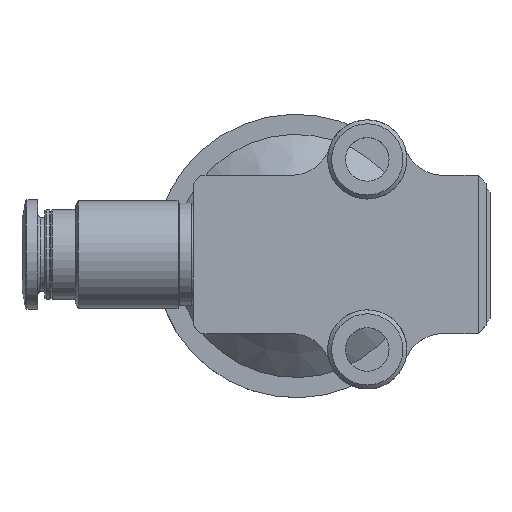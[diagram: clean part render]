
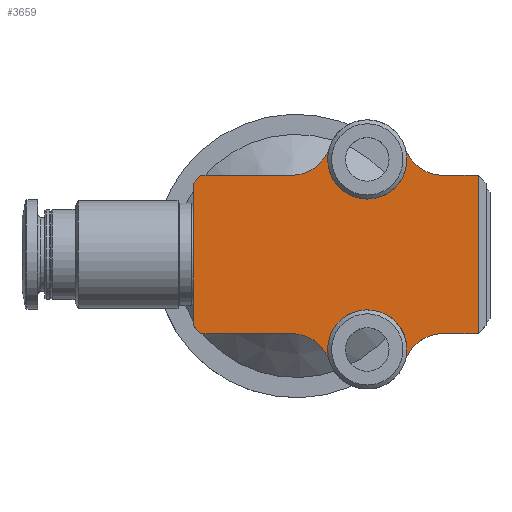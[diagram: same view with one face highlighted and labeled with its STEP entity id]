
A CAD part, top view. The second image highlights one B-rep face of the part: STEP entity #3659.
In plain terms, the highlighted planar face has unit normal (0, 0, 1).
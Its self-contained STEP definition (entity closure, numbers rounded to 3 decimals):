
#98=PLANE('',#3936);
#264=CIRCLE('',#3912,5.);
#266=CIRCLE('',#3915,5.);
#278=CIRCLE('',#3937,5.);
#279=CIRCLE('',#3938,5.);
#280=CIRCLE('',#3939,5.);
#281=CIRCLE('',#3940,5.);
#686=ORIENTED_EDGE('',*,*,#1190,.T.);
#687=ORIENTED_EDGE('',*,*,#1227,.T.);
#688=ORIENTED_EDGE('',*,*,#1228,.F.);
#689=ORIENTED_EDGE('',*,*,#1158,.F.);
#690=ORIENTED_EDGE('',*,*,#1226,.F.);
#691=ORIENTED_EDGE('',*,*,#1229,.F.);
#692=ORIENTED_EDGE('',*,*,#1209,.F.);
#693=ORIENTED_EDGE('',*,*,#1185,.T.);
#694=ORIENTED_EDGE('',*,*,#1230,.T.);
#695=ORIENTED_EDGE('',*,*,#1181,.T.);
#696=ORIENTED_EDGE('',*,*,#1204,.T.);
#697=ORIENTED_EDGE('',*,*,#1231,.T.);
#698=ORIENTED_EDGE('',*,*,#1194,.F.);
#699=ORIENTED_EDGE('',*,*,#1232,.T.);
#700=ORIENTED_EDGE('',*,*,#1233,.T.);
#701=ORIENTED_EDGE('',*,*,#1234,.T.);
#1158=EDGE_CURVE('',#1448,#1447,#1618,.T.);
#1181=EDGE_CURVE('',#1485,#1484,#264,.T.);
#1185=EDGE_CURVE('',#1489,#1487,#266,.T.);
#1190=EDGE_CURVE('',#1494,#1493,#1639,.T.);
#1194=EDGE_CURVE('',#1497,#1498,#1643,.T.);
#1204=EDGE_CURVE('',#1484,#1507,#1653,.T.);
#1209=EDGE_CURVE('',#1489,#1511,#1658,.T.);
#1226=EDGE_CURVE('',#1522,#1448,#1665,.T.);
#1227=EDGE_CURVE('',#1493,#1523,#1666,.T.);
#1228=EDGE_CURVE('',#1447,#1523,#1667,.T.);
#1229=EDGE_CURVE('',#1511,#1522,#1668,.F.);
#1230=EDGE_CURVE('',#1487,#1485,#278,.T.);
#1231=EDGE_CURVE('',#1507,#1498,#1669,.T.);
#1232=EDGE_CURVE('',#1497,#1524,#279,.T.);
#1233=EDGE_CURVE('',#1524,#1525,#280,.T.);
#1234=EDGE_CURVE('',#1525,#1494,#281,.T.);
#1447=VERTEX_POINT('',#8110);
#1448=VERTEX_POINT('',#8111);
#1484=VERTEX_POINT('',#8238);
#1485=VERTEX_POINT('',#8240);
#1487=VERTEX_POINT('',#8246);
#1489=VERTEX_POINT('',#8249);
#1493=VERTEX_POINT('',#8258);
#1494=VERTEX_POINT('',#8260);
#1497=VERTEX_POINT('',#8268);
#1498=VERTEX_POINT('',#8269);
#1507=VERTEX_POINT('',#8288);
#1511=VERTEX_POINT('',#8299);
#1522=VERTEX_POINT('',#8331);
#1523=VERTEX_POINT('',#8335);
#1524=VERTEX_POINT('',#8341);
#1525=VERTEX_POINT('',#8343);
#1618=LINE('',#8170,#1762);
#1639=LINE('',#8259,#1783);
#1643=LINE('',#8267,#1787);
#1653=LINE('',#8289,#1797);
#1658=LINE('',#8298,#1802);
#1665=LINE('',#8332,#1809);
#1666=LINE('',#8334,#1810);
#1667=LINE('',#8336,#1811);
#1668=LINE('',#8337,#1812);
#1669=LINE('',#8339,#1813);
#1762=VECTOR('',#4422,1000.);
#1783=VECTOR('',#4483,1000.);
#1787=VECTOR('',#4489,1000.);
#1797=VECTOR('',#4501,1000.);
#1802=VECTOR('',#4508,1000.);
#1809=VECTOR('',#4545,1000.);
#1810=VECTOR('',#4548,1000.);
#1811=VECTOR('',#4549,1000.);
#1812=VECTOR('',#4550,1000.);
#1813=VECTOR('',#4553,1000.);
#2016=EDGE_LOOP('',(#686,#687,#688,#689,#690,#691,#692,#693,#694,#695,#696,
#697,#698,#699,#700,#701));
#2249=FACE_BOUND('',#2016,.T.);
#3659=ADVANCED_FACE('',(#2249),#98,.F.);
#3912=AXIS2_PLACEMENT_3D('',#8239,#4466,#4467);
#3915=AXIS2_PLACEMENT_3D('',#8248,#4474,#4475);
#3936=AXIS2_PLACEMENT_3D('',#8333,#4546,#4547);
#3937=AXIS2_PLACEMENT_3D('',#8338,#4551,#4552);
#3938=AXIS2_PLACEMENT_3D('',#8340,#4554,#4555);
#3939=AXIS2_PLACEMENT_3D('',#8342,#4556,#4557);
#3940=AXIS2_PLACEMENT_3D('',#8344,#4558,#4559);
#4422=DIRECTION('',(0.,1.,0.));
#4466=DIRECTION('',(0.,0.,-1.));
#4467=DIRECTION('',(0.,-1.,0.));
#4474=DIRECTION('',(0.,0.,-1.));
#4475=DIRECTION('',(0.,-1.,0.));
#4483=DIRECTION('',(-1.,0.,0.));
#4489=DIRECTION('',(1.,0.,0.));
#4501=DIRECTION('',(1.,0.,0.));
#4508=DIRECTION('',(-1.,0.,0.));
#4545=DIRECTION('',(0.,1.,0.));
#4546=DIRECTION('',(0.,0.,-1.));
#4547=DIRECTION('',(0.,-1.,0.));
#4548=DIRECTION('',(-0.707,-0.707,0.));
#4549=DIRECTION('',(0.,1.,0.));
#4550=DIRECTION('',(0.707,-0.707,0.));
#4551=DIRECTION('',(0.,0.,-1.));
#4552=DIRECTION('',(0.,-1.,0.));
#4553=DIRECTION('',(0.,1.,0.));
#4554=DIRECTION('',(0.,0.,-1.));
#4555=DIRECTION('',(0.,-1.,0.));
#4556=DIRECTION('',(0.,0.,-1.));
#4557=DIRECTION('',(0.,-1.,0.));
#4558=DIRECTION('',(0.,0.,-1.));
#4559=DIRECTION('',(0.,-1.,0.));
#8110=CARTESIAN_POINT('',(-13.,1.562,88.176));
#8111=CARTESIAN_POINT('',(-13.,-1.562,88.176));
#8170=CARTESIAN_POINT('',(-13.,0.,88.176));
#8238=CARTESIAN_POINT('',(18.539,-10.,88.176));
#8239=CARTESIAN_POINT('',(18.539,-15.,88.176));
#8240=CARTESIAN_POINT('',(13.77,-13.5,88.176));
#8246=CARTESIAN_POINT('',(4.23,-13.5,88.176));
#8248=CARTESIAN_POINT('',(-0.539,-15.,88.176));
#8249=CARTESIAN_POINT('',(-0.539,-10.,88.176));
#8258=CARTESIAN_POINT('',(-12.,10.,88.176));
#8259=CARTESIAN_POINT('',(17.,10.,88.176));
#8260=CARTESIAN_POINT('',(-0.539,10.,88.176));
#8267=CARTESIAN_POINT('',(13.583,10.,88.176));
#8268=CARTESIAN_POINT('',(18.539,10.,88.176));
#8269=CARTESIAN_POINT('',(23.,10.,88.176));
#8288=CARTESIAN_POINT('',(23.,-10.,88.176));
#8289=CARTESIAN_POINT('',(13.583,-10.,88.176));
#8298=CARTESIAN_POINT('',(17.,-10.,88.176));
#8299=CARTESIAN_POINT('',(-12.,-10.,88.176));
#8331=CARTESIAN_POINT('',(-13.,-9.,88.176));
#8332=CARTESIAN_POINT('',(-13.,0.,88.176));
#8333=CARTESIAN_POINT('',(17.,0.,88.176));
#8334=CARTESIAN_POINT('',(-12.,10.,88.176));
#8335=CARTESIAN_POINT('',(-13.,9.,88.176));
#8336=CARTESIAN_POINT('',(-13.,0.,88.176));
#8337=CARTESIAN_POINT('',(-2.5,-19.5,88.176));
#8338=CARTESIAN_POINT('',(9.,-12.,88.176));
#8339=CARTESIAN_POINT('',(23.,0.,88.176));
#8340=CARTESIAN_POINT('',(18.539,15.,88.176));
#8341=CARTESIAN_POINT('',(13.77,13.5,88.176));
#8342=CARTESIAN_POINT('',(9.,12.,88.176));
#8343=CARTESIAN_POINT('',(4.23,13.5,88.176));
#8344=CARTESIAN_POINT('',(-0.539,15.,88.176));
